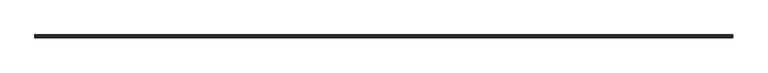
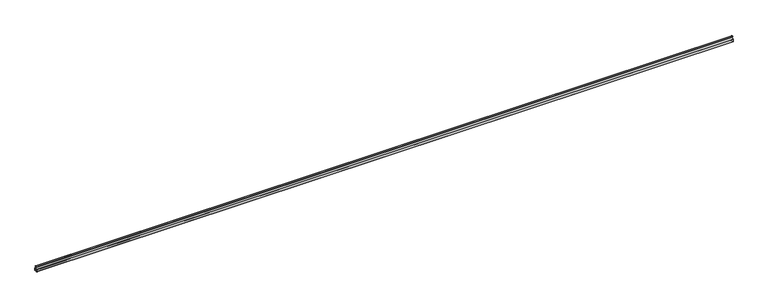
"""IFC4 building model written with IfcOpenShell, lengths in millimetres: proxy geometry, durlum_U1000 : durlum_U1000."""

from ifc_helpers import new_model, si_unit, point, frame, frame_2d, origin, place, context, project, spatial, polyline, circle_curve, trimmed, segment, composite_curve, outline, extrude, source, transform, mapped, element, save


def generic_models_38625c8c(model_context):
    return source(origin(), model_context, "Body", "SweptSolid", [
        extrude(outline(composite_curve([segment(trimmed(circle_curve(frame_2d((0.0, 29.5171793)), 3.0), [point((-1.6090236, 26.9851756))], [point((1.6090236, 26.9851756))], False, "CARTESIAN"), True, "CONTINUOUS"), segment(trimmed(circle_curve(frame_2d((2.1453648, 26.1411743)), 1.0), [point((1.6090236, 26.9851756))], [point((1.1453648, 26.1411743))], True, "CARTESIAN"), True, "CONTINUOUS"), segment(polyline([(1.1453648, 26.1411743), (1.1453648, 23.177656)]), True, "CONTINUOUS"), segment(trimmed(circle_curve(frame_2d((2.1453648, 23.177656)), 1.0), [point((1.1453648, 23.177656))], [point((1.438258, 22.4705492))], True, "CARTESIAN"), True, "CONTINUOUS"), segment(polyline([(1.438258, 22.4705492), (7.7071068, 16.2017005)]), True, "CONTINUOUS"), segment(trimmed(circle_curve(frame_2d((7.0, 15.4945937)), 1.0), [point((7.7071068, 16.2017005))], [point((8.0, 15.4945937))], False, "CARTESIAN"), True, "CONTINUOUS"), segment(polyline([(8.0, 15.4945937), (8.0, 1.453601)]), True, "CONTINUOUS"), segment(trimmed(circle_curve(frame_2d((7.3978988, 1.453601)), 0.6021012), [point((8.0, 1.453601))], [point((6.9721489, 1.0278511))], False, "CARTESIAN"), True, "CONTINUOUS"), segment(polyline([(6.9721489, 1.0278511), (1.0650233, 6.9349767), (2.8374656, 8.707419), (3.5445724, 8.0003122), (2.4792368, 6.9349767), (7.0, 2.4142136), (7.0, 15.4945937), (0.7311512, 21.7634425)]), True, "CONTINUOUS"), segment(trimmed(circle_curve(frame_2d((2.1453648, 23.177656)), 2.0), [point((0.7311512, 21.7634425))], [point((0.1453648, 23.177656))], False, "CARTESIAN"), True, "CONTINUOUS"), segment(polyline([(0.1453648, 23.177656), (0.1453648, 26.1411743)]), True, "CONTINUOUS"), segment(trimmed(circle_curve(frame_2d((2.1453648, 26.1411743)), 2.0), [point((0.1453648, 26.1411743))], [point((1.0726824, 27.8291768))], False, "CARTESIAN"), True, "CONTINUOUS"), segment(trimmed(circle_curve(frame_2d((0.0, 29.5171793)), 2.0), [point((1.0726824, 27.8291768))], [point((-1.0726824, 27.8291768))], True, "CARTESIAN"), True, "CONTINUOUS"), segment(trimmed(circle_curve(frame_2d((-2.1453648, 26.1411743)), 2.0), [point((-1.0726824, 27.8291768))], [point((-0.1453648, 26.1411743))], False, "CARTESIAN"), True, "CONTINUOUS"), segment(polyline([(-0.1453648, 26.1411743), (-0.1453648, 23.2666829)]), True, "CONTINUOUS"), segment(trimmed(circle_curve(frame_2d((-2.1453648, 23.2666829)), 2.0), [point((-0.1453648, 23.2666829))], [point((-0.7311512, 21.8524693))], False, "CARTESIAN"), True, "CONTINUOUS"), segment(polyline([(-0.7311512, 21.8524693), (-7.0, 15.5836206), (-7.0, 2.4659143), (-2.4278932, 6.7890485), (-3.4612032, 7.8223585), (-2.7540964, 8.5294653), (-0.9936112, 6.7689801), (-7.0220162, 1.0688499)]), True, "CONTINUOUS"), segment(trimmed(circle_curve(frame_2d((-7.4342439, 1.5048182)), 0.6), [point((-7.0220162, 1.0688499))], [point((-8.0, 1.3050181))], False, "CARTESIAN"), True, "CONTINUOUS"), segment(polyline([(-8.0, 1.3050181), (-8.0, 15.5836206)]), True, "CONTINUOUS"), segment(trimmed(circle_curve(frame_2d((-7.0, 15.5836206)), 1.0), [point((-8.0, 15.5836206))], [point((-7.7071068, 16.2907273))], False, "CARTESIAN"), True, "CONTINUOUS"), segment(polyline([(-7.7071068, 16.2907273), (-1.438258, 22.5595761)]), True, "CONTINUOUS"), segment(trimmed(circle_curve(frame_2d((-2.1453648, 23.2666829)), 1.0), [point((-1.438258, 22.5595761))], [point((-1.1453648, 23.2666829))], True, "CARTESIAN"), True, "CONTINUOUS"), segment(polyline([(-1.1453648, 23.2666829), (-1.1453648, 26.1411743)]), True, "CONTINUOUS"), segment(trimmed(circle_curve(frame_2d((-2.1453648, 26.1411743)), 1.0), [point((-1.1453648, 26.1411743))], [point((-1.6090236, 26.9851756))], True, "CARTESIAN"), True, "CONTINUOUS")], self_intersect=False)), frame((-2000.0, 0.0, 0.0), z_axis=(1.0, 0.0, 0.0), x_axis=(0.0, 1.0, 0.0)), (0.0, 0.0, 1.0), 4000.0),
    ])


if __name__ == "__main__":
    model = new_model("IFC4")
    model_context = context("Model", 3, world=origin())
    ifc_project = project(units=[si_unit("LENGTHUNIT", "METRE", prefix="MILLI")], contexts=[model_context])
    site = spatial("IfcSite", under=ifc_project)
    building = spatial("IfcBuilding", under=site)
    placement = place(None, origin())
    generic_models_shape = generic_models_38625c8c(model_context)
    element("IfcBuildingElementProxy", 1, Name="durlum_U1000 : durlum_U1000", ObjectType="durlum_U1000 : durlum_U1000", at=placement, inside=building, context=model_context, shape_type="MappedRepresentation", body=[
        mapped(generic_models_shape, transform((0.0, 0.0, 0.0), x_axis=(1.0, 0.0, 0.0), y_axis=(0.0, 1.0, 0.0), z_axis=(0.0, 0.0, 1.0))),
    ])
    save(model, "model.ifc")
